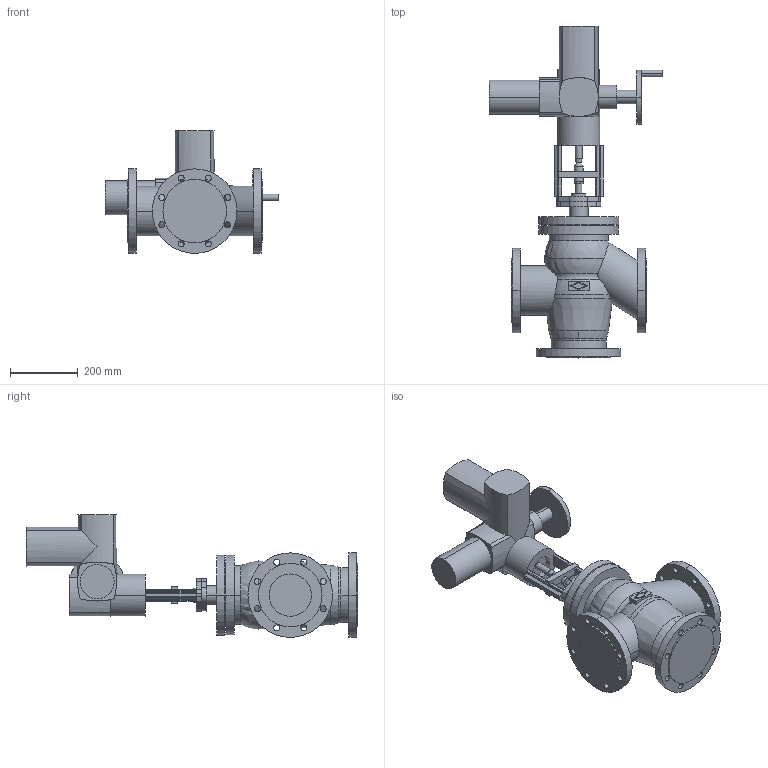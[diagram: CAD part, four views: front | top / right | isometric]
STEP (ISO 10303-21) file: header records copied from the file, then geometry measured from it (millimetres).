
FILE_DESCRIPTION(('Creo Elements/Direct Modeling STEP Export'),'2;1');
FILE_NAME('c000004992.stp','2012-07-02T11:11:31',(''),(''),'Creo Elements/Direct Modeling STEP processor for AP214 (Solid Model)','Creo Elements/Direct Modeling 17.0D 15-Jul-2011 (C) Parametric Technology GmbH','');
FILE_SCHEMA(('AUTOMOTIVE_DESIGN { 1 0 10303 214 1 1 1 1 }'));
Length unit declared in the file: millimetre
Products named in the file (2): 1; 2
Bounding box: 514 x 981 x 363 mm (x, y, z)
Volume: 28157291.1 mm3; surface area: 1222663.7 mm2
Topology: 2 solids, 2 shells, 300 faces, 797 edges, 512 vertices
Faces by surface type: cylinder 157, plane 125, torus 6, sphere 6, cone 6
Entity records: 9676 total; most frequent: CARTESIAN_POINT 2221, ORIENTED_EDGE 1578, DIRECTION 1459, EDGE_CURVE 789, AXIS2_PLACEMENT_3D 535, VERTEX_POINT 512, VECTOR 389, LINE 389
